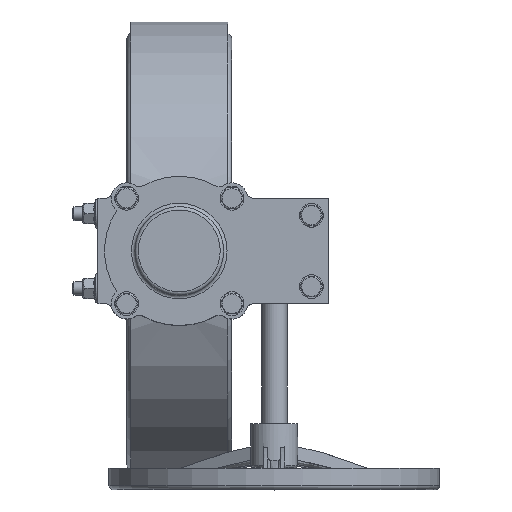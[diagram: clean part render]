
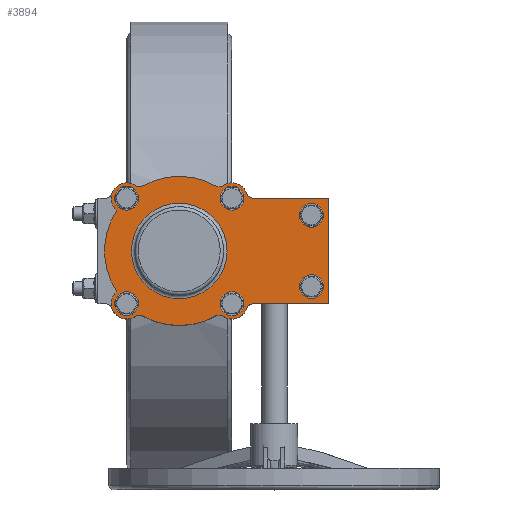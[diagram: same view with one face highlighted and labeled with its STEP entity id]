
A CAD part, top view. The second image highlights one B-rep face of the part: STEP entity #3894.
In plain terms, the highlighted planar face has unit normal (0, 0, 1).
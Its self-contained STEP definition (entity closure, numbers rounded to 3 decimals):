
#3894=ADVANCED_FACE('',(#7992,#7994,#7996,#7998,#8000,#8002,#8004,#8006),#8008,.T.);
#7992=FACE_BOUND('',#7993,.T.);
#7993=EDGE_LOOP('',(#14751,#14752,#14753,#14754,#14755,#14756,#14757,#14758,#14759,
#14760,#14761,#14762,#14763,#14764,#14765,#14766));
#7994=FACE_BOUND('',#7995,.T.);
#7995=EDGE_LOOP('',(#14767));
#7996=FACE_BOUND('',#7997,.T.);
#7997=EDGE_LOOP('',(#14768));
#7998=FACE_BOUND('',#7999,.T.);
#7999=EDGE_LOOP('',(#14769));
#8000=FACE_BOUND('',#8001,.T.);
#8001=EDGE_LOOP('',(#14770));
#8002=FACE_BOUND('',#8003,.T.);
#8003=EDGE_LOOP('',(#14771));
#8004=FACE_BOUND('',#8005,.T.);
#8005=EDGE_LOOP('',(#14772));
#8006=FACE_BOUND('',#8007,.T.);
#8007=EDGE_LOOP('',(#14773));
#8008=PLANE('',#8009);
#8009=AXIS2_PLACEMENT_3D('',#8010,#8011,#8012);
#8010=CARTESIAN_POINT('',(0.,0.,8.));
#8011=DIRECTION('',(0.,0.,1.));
#8012=DIRECTION('',(0.,1.,0.));
#14751=ORIENTED_EDGE('',*,*,#16604,.T.);
#14752=ORIENTED_EDGE('',*,*,#16605,.T.);
#14753=ORIENTED_EDGE('',*,*,#16606,.T.);
#14754=ORIENTED_EDGE('',*,*,#16607,.T.);
#14755=ORIENTED_EDGE('',*,*,#16608,.T.);
#14756=ORIENTED_EDGE('',*,*,#16609,.T.);
#14757=ORIENTED_EDGE('',*,*,#16610,.T.);
#14758=ORIENTED_EDGE('',*,*,#16611,.T.);
#14759=ORIENTED_EDGE('',*,*,#16612,.T.);
#14760=ORIENTED_EDGE('',*,*,#16613,.T.);
#14761=ORIENTED_EDGE('',*,*,#16614,.T.);
#14762=ORIENTED_EDGE('',*,*,#16615,.T.);
#14763=ORIENTED_EDGE('',*,*,#16616,.T.);
#14764=ORIENTED_EDGE('',*,*,#16617,.T.);
#14765=ORIENTED_EDGE('',*,*,#16618,.T.);
#14766=ORIENTED_EDGE('',*,*,#16619,.T.);
#14767=ORIENTED_EDGE('',*,*,#16620,.T.);
#14768=ORIENTED_EDGE('',*,*,#16621,.T.);
#14769=ORIENTED_EDGE('',*,*,#16622,.T.);
#14770=ORIENTED_EDGE('',*,*,#16623,.T.);
#14771=ORIENTED_EDGE('',*,*,#16624,.T.);
#14772=ORIENTED_EDGE('',*,*,#16625,.T.);
#14773=ORIENTED_EDGE('',*,*,#16626,.F.);
#16604=EDGE_CURVE('',#18885,#18886,#18887,.T.);
#16605=EDGE_CURVE('',#18886,#18888,#18889,.T.);
#16606=EDGE_CURVE('',#18888,#18890,#18891,.T.);
#16607=EDGE_CURVE('',#18890,#18892,#18893,.T.);
#16608=EDGE_CURVE('',#18892,#18894,#18895,.T.);
#16609=EDGE_CURVE('',#18894,#18896,#18897,.T.);
#16610=EDGE_CURVE('',#18896,#18898,#18899,.T.);
#16611=EDGE_CURVE('',#18898,#18900,#18901,.T.);
#16612=EDGE_CURVE('',#18900,#18902,#18903,.T.);
#16613=EDGE_CURVE('',#18902,#18904,#18905,.T.);
#16614=EDGE_CURVE('',#18904,#18906,#18907,.T.);
#16615=EDGE_CURVE('',#18906,#18908,#18909,.T.);
#16616=EDGE_CURVE('',#18908,#18910,#18911,.T.);
#16617=EDGE_CURVE('',#18910,#18912,#18913,.T.);
#16618=EDGE_CURVE('',#18912,#18914,#18915,.T.);
#16619=EDGE_CURVE('',#18914,#18885,#18916,.T.);
#16620=EDGE_CURVE('',#18917,#18917,#18918,.F.);
#16621=EDGE_CURVE('',#18919,#18919,#18920,.F.);
#16622=EDGE_CURVE('',#18921,#18921,#18922,.F.);
#16623=EDGE_CURVE('',#18923,#18923,#18924,.F.);
#16624=EDGE_CURVE('',#18925,#18925,#18926,.F.);
#16625=EDGE_CURVE('',#18927,#18927,#18928,.F.);
#16626=EDGE_CURVE('',#18929,#18929,#18930,.T.);
#18885=VERTEX_POINT('',#26507);
#18886=VERTEX_POINT('',#26508);
#18887=CIRCLE('',#26509,8.);
#18888=VERTEX_POINT('',#26513);
#18889=CIRCLE('',#26514,18.);
#18890=VERTEX_POINT('',#26518);
#18891=CIRCLE('',#26519,8.);
#18892=VERTEX_POINT('',#26523);
#18893=LINE('',#26524,#26525);
#18894=VERTEX_POINT('',#26527);
#18895=LINE('',#26528,#26529);
#18896=VERTEX_POINT('',#26531);
#18897=LINE('',#26532,#26533);
#18898=VERTEX_POINT('',#26535);
#18899=CIRCLE('',#26536,8.);
#18900=VERTEX_POINT('',#26540);
#18901=CIRCLE('',#26541,18.);
#18902=VERTEX_POINT('',#26545);
#18903=CIRCLE('',#26546,8.);
#18904=VERTEX_POINT('',#26550);
#18905=CIRCLE('',#26551,87.5);
#18906=VERTEX_POINT('',#26555);
#18907=CIRCLE('',#26556,8.);
#18908=VERTEX_POINT('',#26560);
#18909=CIRCLE('',#26561,18.);
#18910=VERTEX_POINT('',#26565);
#18911=CIRCLE('',#26566,87.5);
#18912=VERTEX_POINT('',#26570);
#18913=CIRCLE('',#26571,18.);
#18914=VERTEX_POINT('',#26575);
#18915=CIRCLE('',#26576,8.);
#18916=CIRCLE('',#26580,87.5);
#18917=VERTEX_POINT('',#26584);
#18918=CIRCLE('',#26585,8.);
#18919=VERTEX_POINT('',#26589);
#18920=CIRCLE('',#26590,8.);
#18921=VERTEX_POINT('',#26594);
#18922=CIRCLE('',#26595,8.);
#18923=VERTEX_POINT('',#26599);
#18924=CIRCLE('',#26600,8.);
#18925=VERTEX_POINT('',#26604);
#18926=CIRCLE('',#26605,8.);
#18927=VERTEX_POINT('',#26609);
#18928=CIRCLE('',#26610,8.);
#18929=VERTEX_POINT('',#26614);
#18930=CIRCLE('',#26615,56.);
#26507=CARTESIAN_POINT('',(76.196,43.016,8.));
#26508=CARTESIAN_POINT('',(76.612,51.541,8.));
#26509=AXIS2_PLACEMENT_3D('',#26510,#26511,#26512);
#26510=CARTESIAN_POINT('',(83.163,46.949,8.));
#26511=DIRECTION('',(0.,0.,-1.));
#26512=DIRECTION('',(-0.871,-0.492,0.));
#26513=CARTESIAN_POINT('',(67.41,78.999,8.));
#26514=AXIS2_PLACEMENT_3D('',#26515,#26516,#26517);
#26515=CARTESIAN_POINT('',(61.872,61.872,8.));
#26516=DIRECTION('',(0.,0.,1.));
#26517=DIRECTION('',(0.819,-0.574,0.));
#26518=CARTESIAN_POINT('',(61.872,86.61,8.));
#26519=AXIS2_PLACEMENT_3D('',#26520,#26521,#26522);
#26520=CARTESIAN_POINT('',(69.872,86.61,8.));
#26521=DIRECTION('',(0.,0.,-1.));
#26522=DIRECTION('',(-0.308,-0.951,0.));
#26523=CARTESIAN_POINT('',(61.872,175.,8.));
#26524=CARTESIAN_POINT('',(61.872,86.61,8.));
#26525=VECTOR('',#26526,1.);
#26526=DIRECTION('',(0.,1.,0.));
#26527=CARTESIAN_POINT('',(-61.872,175.,8.));
#26528=CARTESIAN_POINT('',(61.872,175.,8.));
#26529=VECTOR('',#26530,1.);
#26530=DIRECTION('',(-1.,0.,0.));
#26531=CARTESIAN_POINT('',(-61.872,86.61,8.));
#26532=CARTESIAN_POINT('',(-61.872,175.,8.));
#26533=VECTOR('',#26534,1.);
#26534=DIRECTION('',(0.,-1.,0.));
#26535=CARTESIAN_POINT('',(-67.41,78.999,8.));
#26536=AXIS2_PLACEMENT_3D('',#26537,#26538,#26539);
#26537=CARTESIAN_POINT('',(-69.872,86.61,8.));
#26538=DIRECTION('',(0.,0.,-1.));
#26539=DIRECTION('',(1.,0.,0.));
#26540=CARTESIAN_POINT('',(-76.612,51.541,8.));
#26541=AXIS2_PLACEMENT_3D('',#26542,#26543,#26544);
#26542=CARTESIAN_POINT('',(-61.872,61.872,8.));
#26543=DIRECTION('',(0.,0.,1.));
#26544=DIRECTION('',(-0.308,0.951,0.));
#26545=CARTESIAN_POINT('',(-76.196,43.016,8.));
#26546=AXIS2_PLACEMENT_3D('',#26547,#26548,#26549);
#26547=CARTESIAN_POINT('',(-83.163,46.949,8.));
#26548=DIRECTION('',(0.,0.,-1.));
#26549=DIRECTION('',(0.819,0.574,0.));
#26550=CARTESIAN_POINT('',(-76.196,-43.016,8.));
#26551=AXIS2_PLACEMENT_3D('',#26552,#26553,#26554);
#26552=CARTESIAN_POINT('',(0.,0.,8.));
#26553=DIRECTION('',(0.,0.,1.));
#26554=DIRECTION('',(-0.871,0.492,0.));
#26555=CARTESIAN_POINT('',(-76.612,-51.541,8.));
#26556=AXIS2_PLACEMENT_3D('',#26557,#26558,#26559);
#26557=CARTESIAN_POINT('',(-83.163,-46.949,8.));
#26558=DIRECTION('',(0.,0.,-1.));
#26559=DIRECTION('',(0.871,0.492,0.));
#26560=CARTESIAN_POINT('',(-47.902,-73.223,8.));
#26561=AXIS2_PLACEMENT_3D('',#26562,#26563,#26564);
#26562=CARTESIAN_POINT('',(-61.872,-61.872,8.));
#26563=DIRECTION('',(0.,0.,1.));
#26564=DIRECTION('',(-0.819,0.574,0.));
#26565=CARTESIAN_POINT('',(47.902,-73.223,8.));
#26566=AXIS2_PLACEMENT_3D('',#26567,#26568,#26569);
#26567=CARTESIAN_POINT('',(0.,0.,8.));
#26568=DIRECTION('',(0.,0.,1.));
#26569=DIRECTION('',(-0.547,-0.837,0.));
#26570=CARTESIAN_POINT('',(76.612,-51.541,8.));
#26571=AXIS2_PLACEMENT_3D('',#26572,#26573,#26574);
#26572=CARTESIAN_POINT('',(61.872,-61.872,8.));
#26573=DIRECTION('',(0.,0.,1.));
#26574=DIRECTION('',(-0.776,-0.631,0.));
#26575=CARTESIAN_POINT('',(76.196,-43.016,8.));
#26576=AXIS2_PLACEMENT_3D('',#26577,#26578,#26579);
#26577=CARTESIAN_POINT('',(83.163,-46.949,8.));
#26578=DIRECTION('',(0.,0.,-1.));
#26579=DIRECTION('',(-0.819,-0.574,0.));
#26580=AXIS2_PLACEMENT_3D('',#26581,#26582,#26583);
#26581=CARTESIAN_POINT('',(0.,0.,8.));
#26582=DIRECTION('',(0.,0.,1.));
#26583=DIRECTION('',(0.871,-0.492,0.));
#26584=CARTESIAN_POINT('',(-33.872,155.,8.));
#26585=AXIS2_PLACEMENT_3D('',#26586,#26587,#26588);
#26586=CARTESIAN_POINT('',(-41.872,155.,8.));
#26587=DIRECTION('',(0.,0.,1.));
#26588=DIRECTION('',(1.,0.,0.));
#26589=CARTESIAN_POINT('',(49.872,155.,8.));
#26590=AXIS2_PLACEMENT_3D('',#26591,#26592,#26593);
#26591=CARTESIAN_POINT('',(41.872,155.,8.));
#26592=DIRECTION('',(0.,0.,1.));
#26593=DIRECTION('',(1.,0.,0.));
#26594=CARTESIAN_POINT('',(69.872,-61.872,8.));
#26595=AXIS2_PLACEMENT_3D('',#26596,#26597,#26598);
#26596=CARTESIAN_POINT('',(61.872,-61.872,8.));
#26597=DIRECTION('',(0.,0.,1.));
#26598=DIRECTION('',(1.,0.,0.));
#26599=CARTESIAN_POINT('',(-61.872,-69.872,8.));
#26600=AXIS2_PLACEMENT_3D('',#26601,#26602,#26603);
#26601=CARTESIAN_POINT('',(-61.872,-61.872,8.));
#26602=DIRECTION('',(0.,0.,1.));
#26603=DIRECTION('',(0.,-1.,0.));
#26604=CARTESIAN_POINT('',(-69.872,61.872,8.));
#26605=AXIS2_PLACEMENT_3D('',#26606,#26607,#26608);
#26606=CARTESIAN_POINT('',(-61.872,61.872,8.));
#26607=DIRECTION('',(0.,0.,1.));
#26608=DIRECTION('',(-1.,0.,0.));
#26609=CARTESIAN_POINT('',(61.872,69.872,8.));
#26610=AXIS2_PLACEMENT_3D('',#26611,#26612,#26613);
#26611=CARTESIAN_POINT('',(61.872,61.872,8.));
#26612=DIRECTION('',(0.,0.,1.));
#26613=DIRECTION('',(0.,1.,0.));
#26614=CARTESIAN_POINT('',(-56.,0.,8.));
#26615=AXIS2_PLACEMENT_3D('',#26616,#26617,#26618);
#26616=CARTESIAN_POINT('',(0.,0.,8.));
#26617=DIRECTION('',(0.,0.,1.));
#26618=DIRECTION('',(-1.,0.,0.));
